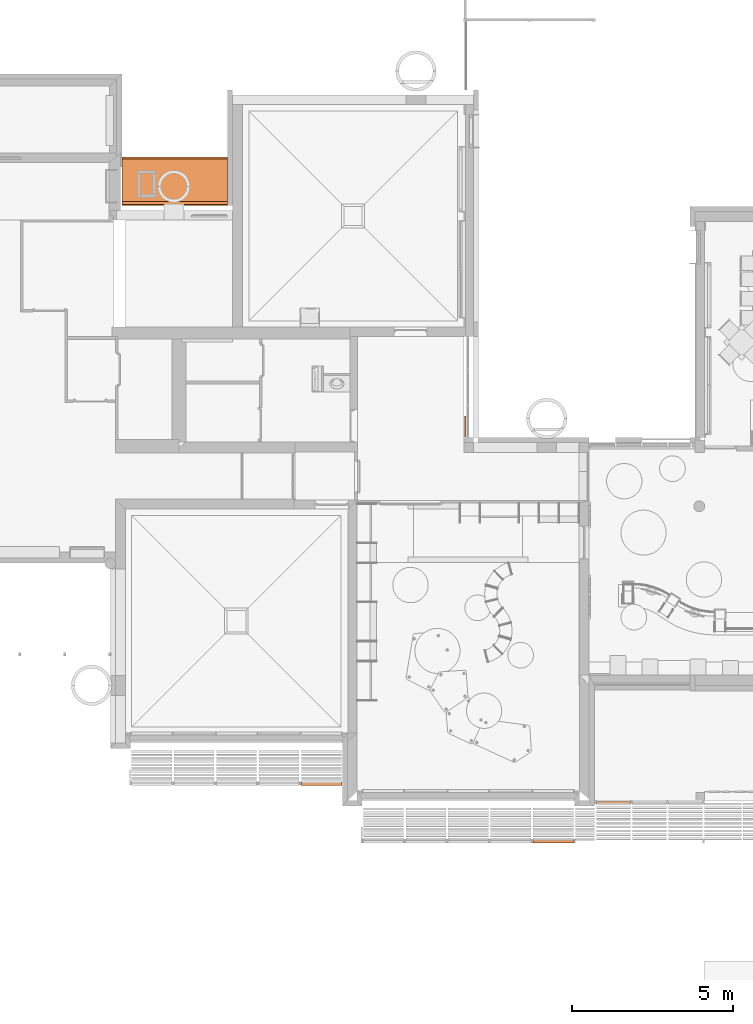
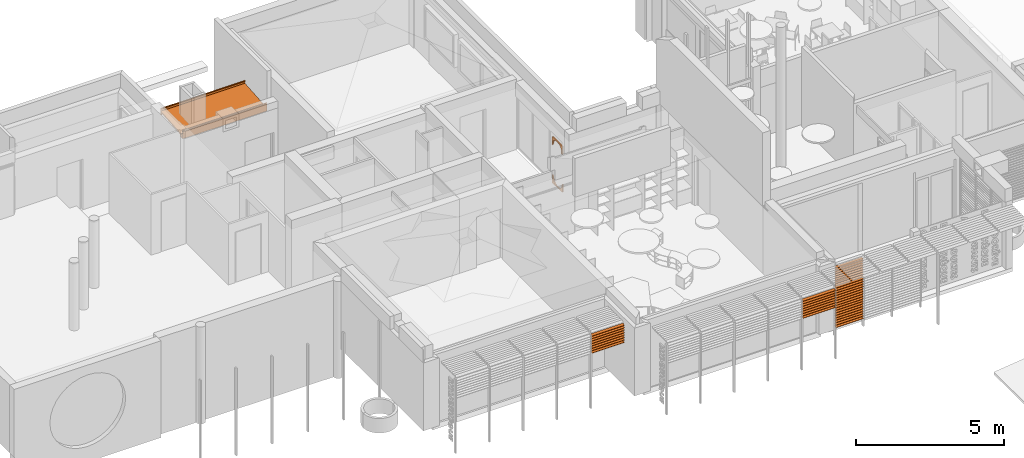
# One storey, part 56 of 64: 5 proxies.
"""IFC2X3 building model written with IfcOpenShell, lengths in metres."""

from ifc_helpers import new_model, entity, si_unit, converted_unit, derived_unit, direction, frame, frame_2d, origin, place, context, subcontext, project, spatial, polyline, circle_curve, parameter, trimmed, segment, composite_curve, rectangle, outline, extrude, source, transform, mapped, material, type_object, type_shapes, element, save


model = new_model("IFC2X3")

# Units and contexts
model_context = context("Model", 3, precision=1e-05, world=origin(), true_north=direction((6.123031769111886e-17, 1.0)))
body_context = subcontext(model_context, "Body", "Model", "MODEL_VIEW")
ifc_project = project(units=[si_unit("LENGTHUNIT", "METRE"), si_unit("AREAUNIT", "SQUARE_METRE"), si_unit("VOLUMEUNIT", "CUBIC_METRE"), converted_unit("PLANEANGLEUNIT", "DEGREE", entity("IfcRatioMeasure", 0.017453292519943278), si_unit("PLANEANGLEUNIT", "RADIAN"), dimensions=[0, 0, 0, 0, 0, 0, 0]), si_unit("MASSUNIT", "GRAM", prefix="KILO"), derived_unit("MASSDENSITYUNIT", [(si_unit("MASSUNIT", "GRAM", prefix="KILO"), 1), (si_unit("LENGTHUNIT", "METRE"), -3)]), derived_unit("MOMENTOFINERTIAUNIT", [(si_unit("LENGTHUNIT", "METRE"), 4)]), si_unit("TIMEUNIT", "SECOND"), si_unit("FREQUENCYUNIT", "HERTZ"), si_unit("THERMODYNAMICTEMPERATUREUNIT", "DEGREE_CELSIUS"), derived_unit("THERMALTRANSMITTANCEUNIT", [(si_unit("MASSUNIT", "GRAM", prefix="KILO"), 1), (si_unit("THERMODYNAMICTEMPERATUREUNIT", "KELVIN"), -1), (si_unit("TIMEUNIT", "SECOND"), -3)]), derived_unit("THERMALCONDUCTANCEUNIT", [(si_unit("MASSUNIT", "GRAM", prefix="KILO"), 1), (si_unit("LENGTHUNIT", "METRE"), 1), (si_unit("THERMODYNAMICTEMPERATUREUNIT", "KELVIN"), -1), (si_unit("TIMEUNIT", "SECOND"), -3)]), derived_unit("VOLUMETRICFLOWRATEUNIT", [(si_unit("LENGTHUNIT", "METRE"), 3), (si_unit("TIMEUNIT", "SECOND"), -1)]), derived_unit("MASSFLOWRATEUNIT", [(si_unit("MASSUNIT", "GRAM", prefix="KILO"), 1), (si_unit("TIMEUNIT", "SECOND"), -1)]), derived_unit("ROTATIONALFREQUENCYUNIT", [(si_unit("TIMEUNIT", "SECOND"), -1)]), si_unit("ELECTRICCURRENTUNIT", "AMPERE"), si_unit("ELECTRICVOLTAGEUNIT", "VOLT"), si_unit("POWERUNIT", "WATT"), si_unit("FORCEUNIT", "NEWTON", prefix="KILO"), si_unit("ILLUMINANCEUNIT", "LUX"), si_unit("LUMINOUSFLUXUNIT", "LUMEN"), si_unit("LUMINOUSINTENSITYUNIT", "CANDELA"), derived_unit("USERDEFINED", [(si_unit("MASSUNIT", "GRAM", prefix="KILO"), -1), (si_unit("LENGTHUNIT", "METRE"), -2), (si_unit("TIMEUNIT", "SECOND"), 3), (si_unit("LUMINOUSFLUXUNIT", "LUMEN"), 1)]), derived_unit("USERDEFINED", [(si_unit("MASSUNIT", "GRAM", prefix="KILO"), 1), (si_unit("LENGTHUNIT", "METRE"), 3), (si_unit("TIMEUNIT", "SECOND"), -3), (si_unit("ELECTRICCURRENTUNIT", "AMPERE"), -2)]), derived_unit("USERDEFINED", [(si_unit("LENGTHUNIT", "METRE"), 2), (si_unit("TIMEUNIT", "SECOND"), -2)]), derived_unit("SOUNDPOWERUNIT", [(si_unit("MASSUNIT", "GRAM", prefix="KILO"), 1), (si_unit("LENGTHUNIT", "METRE"), 2), (si_unit("TIMEUNIT", "SECOND"), -3)]), derived_unit("SOUNDPRESSUREUNIT", [(si_unit("MASSUNIT", "GRAM", prefix="KILO"), 1), (si_unit("LENGTHUNIT", "METRE"), -1), (si_unit("TIMEUNIT", "SECOND"), -2)]), derived_unit("LINEARVELOCITYUNIT", [(si_unit("LENGTHUNIT", "METRE"), 1), (si_unit("TIMEUNIT", "SECOND"), -1)]), si_unit("PRESSUREUNIT", "PASCAL"), derived_unit("USERDEFINED", [(si_unit("LENGTHUNIT", "METRE"), -2), (si_unit("MASSUNIT", "GRAM", prefix="KILO"), 1), (si_unit("TIMEUNIT", "SECOND"), -2)]), derived_unit("LINEARFORCEUNIT", [(si_unit("MASSUNIT", "GRAM", prefix="KILO"), 1), (si_unit("LENGTHUNIT", "METRE"), 1), (si_unit("TIMEUNIT", "SECOND"), -2), (si_unit("LENGTHUNIT", "METRE"), -1)]), derived_unit("PLANARFORCEUNIT", [(si_unit("MASSUNIT", "GRAM", prefix="KILO"), 1), (si_unit("LENGTHUNIT", "METRE"), 1), (si_unit("TIMEUNIT", "SECOND"), -2), (si_unit("LENGTHUNIT", "METRE"), -2)]), derived_unit("SPECIFICHEATCAPACITYUNIT", [(si_unit("LENGTHUNIT", "METRE"), 2), (si_unit("TIMEUNIT", "SECOND"), -2), (si_unit("THERMODYNAMICTEMPERATUREUNIT", "KELVIN"), -1)]), derived_unit("VAPORPERMEABILITYUNIT", [(si_unit("TIMEUNIT", "SECOND"), 1), (si_unit("LENGTHUNIT", "METRE"), -1)]), derived_unit("DYNAMICVISCOSITYUNIT", [(si_unit("MASSUNIT", "GRAM", prefix="KILO"), 1), (si_unit("LENGTHUNIT", "METRE"), -1), (si_unit("TIMEUNIT", "SECOND"), -1)]), derived_unit("THERMALEXPANSIONCOEFFICIENTUNIT", [(si_unit("THERMODYNAMICTEMPERATUREUNIT", "KELVIN"), -1)])], contexts=[model_context])

# Site, building, storey
site_placement = place(None, origin())
site = spatial("IfcSite", under=ifc_project, at=site_placement, Name="Default", CompositionType="ELEMENT")
building_placement = place(site_placement, origin())
building = spatial("IfcBuilding", under=site, at=building_placement, CompositionType="ELEMENT")
storey_placement = place(building_placement, origin())
storey = spatial("IfcBuildingStorey", under=building, at=storey_placement, Name="REZ-DE-CHAUSSÉE", CompositionType="ELEMENT", Elevation=0.0)

# Proxies
ifc_material_1 = material(Name="Bois - Chêne clair")
building_element_proxy_type_1 = type_object("IfcBuildingElementProxyType", Name="Poutre-001:Poutre-001", PredefinedType="NOTDEFINED", material=ifc_material_1)
shared_shape_1 = source(origin(), body_context, "Body", "SweptSolid", [
    extrude(outline(composite_curve([segment(polyline([(0.109999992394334, -0.21999998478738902), (0.10999999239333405, 0.10999999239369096)]), True, "CONTINUOUS"), segment(polyline([(0.10999999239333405, 0.10999999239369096), (-0.2199999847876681, 0.10999999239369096)]), True, "CONTINUOUS"), segment(trimmed(circle_curve(frame_2d((-0.219999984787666, -0.2199999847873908), x_axis=(1.0, 0.0)), 0.32999997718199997), [parameter(3.5622212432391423e-13)], [parameter(90.00000000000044)], True, "PARAMETER"), False, "CONTINUOUS")], self_intersect=False)), frame((113.51075227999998, 15.59220950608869, 0.239999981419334), z_axis=(-1.0, 0.0, 0.0), x_axis=(0.0, 0.0, -1.0)), (0.0, 0.0, -1.0), 0.050000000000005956),
    extrude(outline(composite_curve([segment(polyline([(-0.10999998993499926, -0.10999998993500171), (0.21999997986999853, -0.10999998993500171)]), True, "CONTINUOUS"), segment(trimmed(circle_curve(frame_2d((0.2199999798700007, 0.21999997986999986), x_axis=(2.235176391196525e-08, -1.0)), 0.329999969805), [parameter(269.99999871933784)], [parameter(359.9999987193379)], True, "PARAMETER"), False, "CONTINUOUS"), segment(polyline([(-0.10999998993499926, 0.21999997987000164), (-0.10999998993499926, -0.10999998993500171)]), True, "CONTINUOUS")], self_intersect=False)), frame((113.51075227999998, 16.03220946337, 0.23999997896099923), z_axis=(1.0, 0.0, 0.0), x_axis=(0.0, 0.0, 1.0)), (0.0, 0.0, 1.0), 0.050000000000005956),
    extrude(outline(composite_curve([segment(polyline([(-0.10999999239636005, -0.10999999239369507), (0.21999998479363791, -0.10999999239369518)]), True, "CONTINUOUS"), segment(trimmed(circle_curve(frame_2d((0.21999998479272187, 0.21999998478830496), x_axis=(0.0, -1.0)), 0.32999997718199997), [parameter(269.99999999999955)], [parameter(359.99999999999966)], True, "PARAMETER"), False, "CONTINUOUS"), segment(polyline([(-0.10999999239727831, 0.21999998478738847), (-0.10999999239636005, -0.10999999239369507)]), True, "CONTINUOUS")], self_intersect=False)), frame((113.51075227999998, 15.592209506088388, 1.9099999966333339), z_axis=(1.0, 0.0, 0.0), x_axis=(0.0, 0.0, -1.0)), (0.0, 0.0, 1.0), 0.050000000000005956),
    extrude(outline(composite_curve([segment(polyline([(0.10999998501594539, -0.21999998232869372), (0.10999999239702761, 0.10999998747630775)]), True, "CONTINUOUS"), segment(polyline([(0.10999999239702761, 0.10999998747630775), (-0.21999997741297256, 0.10999999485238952)]), True, "CONTINUOUS"), segment(trimmed(circle_curve(frame_2d((-0.21999998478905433, -0.21999997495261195), x_axis=(1.0, 0.0)), 0.329999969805), [parameter(359.9999987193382)], [parameter(89.9999987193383)], True, "PARAMETER"), False, "CONTINUOUS")], self_intersect=False)), frame((113.51075227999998, 16.03220946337, 1.9099999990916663), z_axis=(-1.0, 0.0, 0.0), x_axis=(0.0, 2.2351764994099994e-08, 1.0)), (0.0, 0.0, -1.0), 0.050000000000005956),
])
type_shapes(building_element_proxy_type_1, [shared_shape_1])
proxy_1_placement = place(storey_placement, origin())
element("IfcBuildingElementProxy", 1, at=proxy_1_placement, inside=storey, type_object=building_element_proxy_type_1, material=ifc_material_1, Name="Poutre-001:Poutre-001", ObjectType="Poutre-001:Poutre-001", context=body_context, shape_type="MappedRepresentation", body=[
    mapped(shared_shape_1, transform((0.0, 0.0, 0.0), scale=1.0)),
])
building_element_proxy_type_2 = type_object("IfcBuildingElementProxyType", Name="Symb-0003", PredefinedType="NOTDEFINED", material=ifc_material_1)
shared_shape_2 = source(origin(), body_context, "Body", "SweptSolid", [
    extrude(rectangle(XDim=0.020000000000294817, YDim=0.09999999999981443, at=frame_2d((6.002143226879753e-16, 6.852157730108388e-17), x_axis=(0.0, 1.0))), frame((115.63575228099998, 2.9072094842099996, 2.55), z_axis=(1.0, 0.0, 0.0), x_axis=(0.0, 0.9396926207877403, 0.34202014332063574)), (0.0, 0.0, 1.0), 1.2700000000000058),
    extrude(rectangle(XDim=0.02000000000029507, YDim=0.09999999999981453, at=frame_2d((5.585809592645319e-16, -5.811323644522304e-17), x_axis=(0.0, 1.0))), frame((115.63575228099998, 2.9072094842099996, 2.4499999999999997), z_axis=(1.0, 0.0, 0.0), x_axis=(0.0, 0.9396926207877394, 0.3420201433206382)), (0.0, 0.0, 1.0), 1.2700000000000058),
    extrude(rectangle(XDim=0.02000000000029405, YDim=0.09999999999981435, at=frame_2d((5.551115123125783e-16, -5.637851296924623e-17), x_axis=(0.0, 1.0))), frame((115.63575228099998, 2.9072094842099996, 2.35), z_axis=(1.0, 0.0, 0.0), x_axis=(0.0, 0.9396926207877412, 0.3420201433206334)), (0.0, 0.0, 1.0), 1.270000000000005),
    extrude(rectangle(XDim=0.02000000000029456, YDim=0.09999999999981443, at=frame_2d((4.198030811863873e-16, -4.388850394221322e-16), x_axis=(0.0, 1.0))), frame((115.63575228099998, 2.9072094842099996, 2.25), z_axis=(1.0, 0.0, 0.0), x_axis=(0.0, 0.9396926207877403, 0.34202014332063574)), (0.0, 0.0, 1.0), 1.2700000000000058),
    extrude(rectangle(XDim=0.020000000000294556, YDim=0.09999999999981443, at=frame_2d((4.614364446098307e-16, -3.1138286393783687e-16), x_axis=(0.0, 1.0))), frame((115.63575228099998, 2.9072094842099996, 2.1500000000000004), z_axis=(1.0, 0.0, 0.0), x_axis=(0.0, 0.9396926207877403, 0.34202014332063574)), (0.0, 0.0, 1.0), 1.2700000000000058),
    extrude(rectangle(XDim=0.020000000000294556, YDim=0.09999999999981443, at=frame_2d((4.614364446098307e-16, -3.1138286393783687e-16), x_axis=(0.0, 1.0))), frame((115.63575228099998, 2.9072094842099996, 2.0500000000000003), z_axis=(1.0, 0.0, 0.0), x_axis=(0.0, 0.9396926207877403, 0.34202014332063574)), (0.0, 0.0, 1.0), 1.2700000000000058),
    extrude(rectangle(XDim=0.02000000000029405, YDim=0.09999999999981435, at=frame_2d((5.551115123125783e-16, -5.637851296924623e-17), x_axis=(0.0, 1.0))), frame((115.63575228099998, 2.9072094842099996, 1.95), z_axis=(1.0, 0.0, 0.0), x_axis=(0.0, 0.9396926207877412, 0.3420201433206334)), (0.0, 0.0, 1.0), 1.270000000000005),
    extrude(rectangle(XDim=0.02000000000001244, YDim=0.09999999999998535, at=frame_2d((5.551115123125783e-16, -5.811323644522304e-17), x_axis=(0.0, 1.0))), frame((115.63575228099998, 2.9072094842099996, 1.8499999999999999), z_axis=(1.0, 0.0, 0.0), x_axis=(0.0, 0.9396926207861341, 0.3420201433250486)), (0.0, 0.0, 1.0), 1.2700000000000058),
])
type_shapes(building_element_proxy_type_2, [shared_shape_2])
proxy_2_placement = place(storey_placement, origin())
element("IfcBuildingElementProxy", 2, at=proxy_2_placement, inside=storey, type_object=building_element_proxy_type_2, material=ifc_material_1, Name="Symb-0003 60907:Symb-0003 60907", ObjectType="Symb-0003 60907:Symb-0003 60907", context=body_context, shape_type="MappedRepresentation", body=[
    mapped(shared_shape_2, transform((0.0, 0.0, 0.0), scale=1.0)),
])
building_element_proxy_type_3 = type_object("IfcBuildingElementProxyType", Name="Symb-0003", PredefinedType="NOTDEFINED", material=ifc_material_1)
shared_shape_3 = source(origin(), body_context, "Body", "SweptSolid", [
    extrude(rectangle(XDim=0.020000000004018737, YDim=0.10200000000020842, at=frame_2d((-2.5326962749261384e-16, 9.280770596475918e-17), x_axis=(0.0, 1.0))), frame((117.61074673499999, 4.09720948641, 2.498999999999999), z_axis=(1.0, 0.0, 0.0), x_axis=(0.0, 0.9396926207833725, 0.34202014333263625)), (0.0, 0.0, 1.0), 1.0699999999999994),
    extrude(rectangle(XDim=0.02000000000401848, YDim=0.10200000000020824, at=frame_2d((-2.6020852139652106e-16, 9.194034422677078e-17), x_axis=(0.0, 1.0))), frame((117.61074673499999, 4.09720948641, 2.397), z_axis=(1.0, 0.0, 0.0), x_axis=(0.0, 0.9396926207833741, 0.3420201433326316)), (0.0, 0.0, 1.0), 1.0699999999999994),
    extrude(rectangle(XDim=0.020000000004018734, YDim=0.10200000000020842, at=frame_2d((-3.0184188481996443e-16, -3.382710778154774e-17), x_axis=(0.0, 1.0))), frame((117.61074673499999, 4.09720948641, 2.295), z_axis=(1.0, 0.0, 0.0), x_axis=(0.0, 0.9396926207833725, 0.34202014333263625)), (0.0, 0.0, 1.0), 1.0699999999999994),
    extrude(rectangle(XDim=0.020000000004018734, YDim=0.10200000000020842, at=frame_2d((-3.0184188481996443e-16, -3.382710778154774e-17), x_axis=(0.0, 1.0))), frame((117.61074673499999, 4.09720948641, 2.193), z_axis=(1.0, 0.0, 0.0), x_axis=(0.0, 0.9396926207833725, 0.34202014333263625)), (0.0, 0.0, 1.0), 1.0699999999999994),
    extrude(rectangle(XDim=0.020000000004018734, YDim=0.10200000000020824, at=frame_2d((-2.1163626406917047e-16, 2.211772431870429e-16), x_axis=(0.0, 1.0))), frame((117.61074673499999, 4.09720948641, 2.0909999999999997), z_axis=(1.0, 0.0, 0.0), x_axis=(0.0, 0.9396926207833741, 0.3420201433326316)), (0.0, 0.0, 1.0), 1.0699999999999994),
    extrude(rectangle(XDim=0.020000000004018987, YDim=0.10200000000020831, at=frame_2d((-3.0184188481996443e-16, -3.382710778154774e-17), x_axis=(0.0, 1.0))), frame((117.61074673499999, 4.09720948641, 1.9889999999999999), z_axis=(1.0, 0.0, 0.0), x_axis=(0.0, 0.9396926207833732, 0.3420201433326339)), (0.0, 0.0, 1.0), 1.0699999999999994),
    extrude(rectangle(XDim=0.020000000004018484, YDim=0.10200000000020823, at=frame_2d((-1.6306400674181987e-16, 3.478120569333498e-16), x_axis=(0.0, 1.0))), frame((117.61074673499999, 4.09720948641, 1.8869999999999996), z_axis=(1.0, 0.0, 0.0), x_axis=(0.0, 0.9396926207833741, 0.3420201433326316)), (0.0, 0.0, 1.0), 1.0699999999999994),
    extrude(rectangle(XDim=0.020000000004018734, YDim=0.10200000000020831, at=frame_2d((-2.5673907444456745e-16, 9.280770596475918e-17), x_axis=(0.0, 1.0))), frame((117.61074673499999, 4.09720948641, 1.7850000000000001), z_axis=(1.0, 0.0, 0.0), x_axis=(0.0, 0.9396926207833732, 0.3420201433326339)), (0.0, 0.0, 1.0), 1.0699999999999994),
    extrude(rectangle(XDim=0.020000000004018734, YDim=0.10200000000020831, at=frame_2d((-1.5959455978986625e-16, 3.469446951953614e-16), x_axis=(0.0, 1.0))), frame((117.61074673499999, 4.09720948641, 1.6829999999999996), z_axis=(1.0, 0.0, 0.0), x_axis=(0.0, 0.9396926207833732, 0.3420201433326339)), (0.0, 0.0, 1.0), 1.0699999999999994),
    extrude(rectangle(XDim=0.02000000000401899, YDim=0.10200000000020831, at=frame_2d((-2.0816681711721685e-16, 2.203098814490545e-16), x_axis=(0.0, 1.0))), frame((117.61074673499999, 4.09720948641, 1.5809999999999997), z_axis=(1.0, 0.0, 0.0), x_axis=(0.0, 0.9396926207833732, 0.3420201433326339)), (0.0, 0.0, 1.0), 1.0699999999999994),
    extrude(rectangle(XDim=0.020000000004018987, YDim=0.10200000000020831, at=frame_2d((-3.0184188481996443e-16, -3.382710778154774e-17), x_axis=(0.0, 1.0))), frame((117.61074673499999, 4.09720948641, 1.479), z_axis=(1.0, 0.0, 0.0), x_axis=(0.0, 0.9396926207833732, 0.3420201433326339)), (0.0, 0.0, 1.0), 1.0699999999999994),
    extrude(rectangle(XDim=0.02000000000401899, YDim=0.10200000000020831, at=frame_2d((-2.5673907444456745e-16, 9.280770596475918e-17), x_axis=(0.0, 1.0))), frame((117.61074673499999, 4.09720948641, 1.3769999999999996), z_axis=(1.0, 0.0, 0.0), x_axis=(0.0, 0.9396926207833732, 0.3420201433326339)), (0.0, 0.0, 1.0), 1.0699999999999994),
    extrude(rectangle(XDim=0.02000000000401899, YDim=0.10200000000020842, at=frame_2d((-2.5326962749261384e-16, 9.280770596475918e-17), x_axis=(0.0, 1.0))), frame((117.61074673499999, 4.09720948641, 1.275), z_axis=(1.0, 0.0, 0.0), x_axis=(0.0, 0.9396926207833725, 0.34202014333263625)), (0.0, 0.0, 1.0), 1.0699999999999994),
    extrude(rectangle(XDim=0.02000000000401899, YDim=0.10200000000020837, at=frame_2d((-2.740863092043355e-16, 2.862293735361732e-17), x_axis=(0.0, 1.0))), frame((117.61074673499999, 4.09720948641, 1.1729999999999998), z_axis=(1.0, 0.0, 0.0), x_axis=(0.0, 0.9396926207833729, 0.3420201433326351)), (0.0, 0.0, 1.0), 1.0699999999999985),
    extrude(rectangle(XDim=0.020000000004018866, YDim=0.10200000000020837, at=frame_2d((-2.5326962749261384e-16, 9.280770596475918e-17), x_axis=(0.0, 1.0))), frame((117.61074673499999, 4.09720948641, 1.071), z_axis=(1.0, 0.0, 0.0), x_axis=(0.0, 0.9396926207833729, 0.3420201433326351)), (0.0, 0.0, 1.0), 1.0699999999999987),
    extrude(rectangle(XDim=0.01999999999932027, YDim=0.10199999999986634, at=frame_2d((-2.255140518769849e-16, 1.5612511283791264e-16), x_axis=(0.0, 1.0))), frame((117.61074673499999, 4.09720948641, 0.9689999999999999), z_axis=(1.0, 0.0, 0.0), x_axis=(0.0, 0.9396926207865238, 0.34202014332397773)), (0.0, 0.0, 1.0), 1.0699999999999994),
    extrude(rectangle(XDim=0.019999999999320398, YDim=0.10199999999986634, at=frame_2d((-2.255140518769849e-16, 1.5612511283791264e-16), x_axis=(0.0, 1.0))), frame((117.61074673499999, 4.09720948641, 0.8669999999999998), z_axis=(1.0, 0.0, 0.0), x_axis=(0.0, 0.9396926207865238, 0.34202014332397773)), (0.0, 0.0, 1.0), 1.0699999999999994),
    extrude(rectangle(XDim=0.019999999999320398, YDim=0.10199999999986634, at=frame_2d((-2.8102520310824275e-16, 2.949029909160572e-17), x_axis=(0.0, 1.0))), frame((117.61074673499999, 4.09720948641, 0.765), z_axis=(1.0, 0.0, 0.0), x_axis=(0.0, 0.9396926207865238, 0.34202014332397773)), (0.0, 0.0, 1.0), 1.0699999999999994),
    extrude(rectangle(XDim=0.019999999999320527, YDim=0.10199999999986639, at=frame_2d((-2.5326962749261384e-16, 9.194034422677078e-17), x_axis=(0.0, 1.0))), frame((117.61074673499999, 4.09720948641, 0.6629999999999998), z_axis=(1.0, 0.0, 0.0), x_axis=(0.0, 0.9396926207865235, 0.34202014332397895)), (0.0, 0.0, 1.0), 1.0699999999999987),
    extrude(rectangle(XDim=0.019999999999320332, YDim=0.10199999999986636, at=frame_2d((-2.5326962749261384e-16, 9.280770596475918e-17), x_axis=(0.0, 1.0))), frame((117.61074673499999, 4.09720948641, 0.5609999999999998), z_axis=(1.0, 0.0, 0.0), x_axis=(0.0, 0.9396926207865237, 0.34202014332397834)), (0.0, 0.0, 1.0), 1.0699999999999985),
    extrude(rectangle(XDim=0.01999999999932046, YDim=0.10199999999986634, at=frame_2d((-2.5326962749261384e-16, 9.367506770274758e-17), x_axis=(0.0, 1.0))), frame((117.61074673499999, 4.09720948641, 0.4589999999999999), z_axis=(1.0, 0.0, 0.0), x_axis=(0.0, 0.9396926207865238, 0.34202014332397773)), (0.0, 0.0, 1.0), 1.0699999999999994),
    extrude(rectangle(XDim=0.01999999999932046, YDim=0.10199999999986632, at=frame_2d((-2.42861286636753e-16, 1.240327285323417e-16), x_axis=(0.0, 1.0))), frame((117.61074673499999, 4.09720948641, 0.3569999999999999), z_axis=(1.0, 0.0, 0.0), x_axis=(0.0, 0.939692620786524, 0.3420201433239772)), (0.0, 0.0, 1.0), 1.0699999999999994),
    extrude(rectangle(XDim=0.019999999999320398, YDim=0.10199999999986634, at=frame_2d((-2.636779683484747e-16, 7.546047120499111e-17), x_axis=(0.0, 1.0))), frame((117.61074673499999, 4.09720948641, 0.2549999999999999), z_axis=(1.0, 0.0, 0.0), x_axis=(0.0, 0.9396926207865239, 0.34202014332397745)), (0.0, 0.0, 1.0), 1.0699999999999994),
    extrude(rectangle(XDim=0.019999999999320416, YDim=0.10199999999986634, at=frame_2d((-2.636779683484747e-16, 7.546047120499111e-17), x_axis=(0.0, 1.0))), frame((117.61074673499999, 4.09720948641, 0.1529999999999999), z_axis=(1.0, 0.0, 0.0), x_axis=(0.0, 0.9396926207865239, 0.34202014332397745)), (0.0, 0.0, 1.0), 1.0699999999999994),
    extrude(rectangle(XDim=0.01999999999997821, YDim=0.10199999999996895, at=frame_2d((-2.5326962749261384e-16, 9.80118763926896e-17), x_axis=(0.0, 1.0))), frame((117.61074673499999, 4.09720948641, 0.050999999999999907), z_axis=(1.0, 0.0, 0.0), x_axis=(0.0, 0.9396926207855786, 0.34202014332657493)), (0.0, 0.0, 1.0), 1.0699999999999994),
])
type_shapes(building_element_proxy_type_3, [shared_shape_3])
proxy_3_placement = place(storey_placement, origin())
element("IfcBuildingElementProxy", 3, at=proxy_3_placement, inside=storey, type_object=building_element_proxy_type_3, material=ifc_material_1, Name="Symb-0003 62364:Symb-0003 62364", ObjectType="Symb-0003 62364:Symb-0003 62364", context=body_context, shape_type="MappedRepresentation", body=[
    mapped(shared_shape_3, transform((0.0, 0.0, 0.0), scale=1.0)),
])
building_element_proxy_type_4 = type_object("IfcBuildingElementProxyType", Name="Symb-0003", PredefinedType="NOTDEFINED", material=ifc_material_1)
shared_shape_4 = source(origin(), body_context, "Body", "SweptSolid", [
    extrude(rectangle(XDim=0.02000000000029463, YDim=0.09999999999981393, at=frame_2d((3.469446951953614e-16, 1.6219664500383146e-16), x_axis=(0.0, 1.0))), frame((108.425752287, 4.6972094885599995, 2.55), z_axis=(1.0, 0.0, 0.0), x_axis=(0.0, 0.9396926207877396, 0.3420201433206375)), (0.0, 0.0, 1.0), 1.2699999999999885),
    extrude(rectangle(XDim=0.020000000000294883, YDim=0.09999999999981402, at=frame_2d((3.0184188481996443e-16, 3.382710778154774e-17), x_axis=(0.0, 1.0))), frame((108.425752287, 4.6972094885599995, 2.4499999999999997), z_axis=(1.0, 0.0, 0.0), x_axis=(0.0, 0.9396926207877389, 0.3420201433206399)), (0.0, 0.0, 1.0), 1.2699999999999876),
    extrude(rectangle(XDim=0.020000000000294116, YDim=0.09999999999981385, at=frame_2d((2.5326962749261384e-16, -9.194034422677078e-17), x_axis=(0.0, 1.0))), frame((108.425752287, 4.6972094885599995, 2.35), z_axis=(1.0, 0.0, 0.0), x_axis=(0.0, 0.9396926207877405, 0.34202014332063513)), (0.0, 0.0, 1.0), 1.2699999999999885),
    extrude(rectangle(XDim=0.020000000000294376, YDim=0.09999999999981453, at=frame_2d((-4.5102810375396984e-17, -1.2923689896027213e-16), x_axis=(0.0, 1.0))), frame((108.425752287, 4.6972094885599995, 2.25), z_axis=(1.0, 0.0, 0.0), x_axis=(0.0, 0.9396926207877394, 0.3420201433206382)), (0.0, 0.0, 1.0), 1.2699999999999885),
    extrude(rectangle(XDim=0.020000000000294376, YDim=0.09999999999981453, at=frame_2d((0.0, 0.0), x_axis=(0.0, 1.0))), frame((108.425752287, 4.6972094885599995, 2.15), z_axis=(1.0, 0.0, 0.0), x_axis=(0.0, 0.9396926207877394, 0.3420201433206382)), (0.0, 0.0, 1.0), 1.2699999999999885),
    extrude(rectangle(XDim=0.020000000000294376, YDim=0.09999999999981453, at=frame_2d((0.0, 0.0), x_axis=(0.0, 1.0))), frame((108.425752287, 4.6972094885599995, 2.05), z_axis=(1.0, 0.0, 0.0), x_axis=(0.0, 0.9396926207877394, 0.3420201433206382)), (0.0, 0.0, 1.0), 1.2699999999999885),
    extrude(rectangle(XDim=0.020000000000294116, YDim=0.09999999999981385, at=frame_2d((2.5326962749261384e-16, -9.194034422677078e-17), x_axis=(0.0, 1.0))), frame((108.425752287, 4.6972094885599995, 1.95), z_axis=(1.0, 0.0, 0.0), x_axis=(0.0, 0.9396926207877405, 0.34202014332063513)), (0.0, 0.0, 1.0), 1.2699999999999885),
    extrude(rectangle(XDim=0.020000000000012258, YDim=0.09999999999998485, at=frame_2d((3.0184188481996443e-16, 3.382710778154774e-17), x_axis=(0.0, 1.0))), frame((108.425752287, 4.6972094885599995, 1.8499999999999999), z_axis=(1.0, 0.0, 0.0), x_axis=(0.0, 0.9396926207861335, 0.3420201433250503)), (0.0, 0.0, 1.0), 1.2699999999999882),
])
type_shapes(building_element_proxy_type_4, [shared_shape_4])
proxy_4_placement = place(storey_placement, origin())
element("IfcBuildingElementProxy", 4, at=proxy_4_placement, inside=storey, type_object=building_element_proxy_type_4, material=ifc_material_1, Name="Symb-0003 134351:Symb-0003 134351", ObjectType="Symb-0003 134351:Symb-0003 134351", context=body_context, shape_type="MappedRepresentation", body=[
    mapped(shared_shape_4, transform((0.0, 0.0, 0.0), scale=1.0)),
])
ifc_material_2 = material(Name="Peinture - Gris foncé")
building_element_proxy_type_5 = type_object("IfcBuildingElementProxyType", Name="Poutre-016 844062:Poutre-016 844062", PredefinedType="NOTDEFINED", material=ifc_material_2)
shared_shape_5 = source(origin(), body_context, "Body", "SweptSolid", [
    extrude(outline(polyline([(-0.030000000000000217, -0.019999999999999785), (0.030000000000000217, -0.019999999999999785), (0.030000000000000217, 0.019999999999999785), (-0.030000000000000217, 0.019999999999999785), (-0.030000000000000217, -0.019999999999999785)]), holes=[polyline([(-0.025000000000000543, -0.015000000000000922), (-0.025000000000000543, 0.015000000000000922), (0.025000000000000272, 0.015000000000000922), (0.025000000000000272, -0.015000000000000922), (-0.025000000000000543, -0.015000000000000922)])]), frame((102.85075228, 24.157209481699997, 1.8499999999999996), z_axis=(1.0, 0.0, 0.0), x_axis=(0.0, 0.0, 1.0)), (0.0, 0.0, 1.0), 3.290000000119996),
    extrude(outline(polyline([(0.01125000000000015, 0.002500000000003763), (0.05125000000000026, 0.002500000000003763), (0.05125000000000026, 0.012500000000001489), (0.0012499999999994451, 0.012500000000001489), (-0.01374999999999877, -0.0024999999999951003), (-0.048750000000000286, -0.0024999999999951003), (-0.048750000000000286, -0.01249999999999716), (-0.003750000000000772, -0.01249999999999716), (0.01125000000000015, 0.002500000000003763)])), frame((102.85075228, 22.699709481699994, 2.0012499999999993), z_axis=(1.0, 0.0, 0.0), x_axis=(0.0, 0.0, -1.0)), (0.0, 0.0, 1.0), 3.2900000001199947),
    extrude(outline(polyline([(-0.017500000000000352, 0.11500000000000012), (0.022499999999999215, 0.11500000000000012), (0.022499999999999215, 0.125), (-0.02750000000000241, 0.125), (-0.02750000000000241, -0.125), (0.022499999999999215, -0.125), (0.022499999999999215, -0.11500000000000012), (-0.017500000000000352, -0.11500000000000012), (-0.017500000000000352, 0.11500000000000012)])), frame((102.85075228, 24.159709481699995, 1.9349999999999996), z_axis=(1.0, 0.0, 0.0), x_axis=(0.0, -1.0, 0.0)), (0.0, 0.0, 1.0), 3.290000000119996),
    extrude(outline(polyline([(-0.025000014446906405, -0.6849999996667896), (0.024999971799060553, -0.6849999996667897), (0.025000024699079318, 0.6849999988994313), (-0.02499998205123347, 0.6850000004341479), (-0.025000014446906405, -0.6849999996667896)])), frame((102.85075228, 23.492258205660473, 1.8636988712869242), z_axis=(1.0, 0.0, 0.0), x_axis=(0.0, -0.0747899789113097, 0.9971993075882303)), (0.0, 0.0, 1.0), 3.290000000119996),
    extrude(outline(polyline([(-0.01869496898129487, -0.13141892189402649), (-0.008694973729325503, -0.13141892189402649), (-0.00869497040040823, -0.03141892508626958), (-0.08722439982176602, -0.025529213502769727), (-0.07750169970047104, 0.10410669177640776), (0.20171409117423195, 0.0831654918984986), (0.20246199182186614, 0.09313749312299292), (-0.08672580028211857, 0.11482659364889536), (-0.09794430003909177, -0.03475329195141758), (-0.018694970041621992, -0.04069699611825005), (-0.01869496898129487, -0.13141892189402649)])), frame((102.85075228, 22.79522825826, 1.7950707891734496), z_axis=(1.0, 0.0, 0.0), x_axis=(0.0, -0.07479000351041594, 0.9971993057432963)), (0.0, 0.0, 1.0), 3.290000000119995),
])
type_shapes(building_element_proxy_type_5, [shared_shape_5])
proxy_5_placement = place(storey_placement, origin())
element("IfcBuildingElementProxy", 5, at=proxy_5_placement, inside=storey, type_object=building_element_proxy_type_5, material=ifc_material_2, Name="Poutre-016 844062:Poutre-016 844062", ObjectType="Poutre-016 844062:Poutre-016 844062", context=body_context, shape_type="MappedRepresentation", body=[
    mapped(shared_shape_5, transform((0.0, 0.0, 0.0), scale=1.0)),
])

save(model, "model.ifc")
